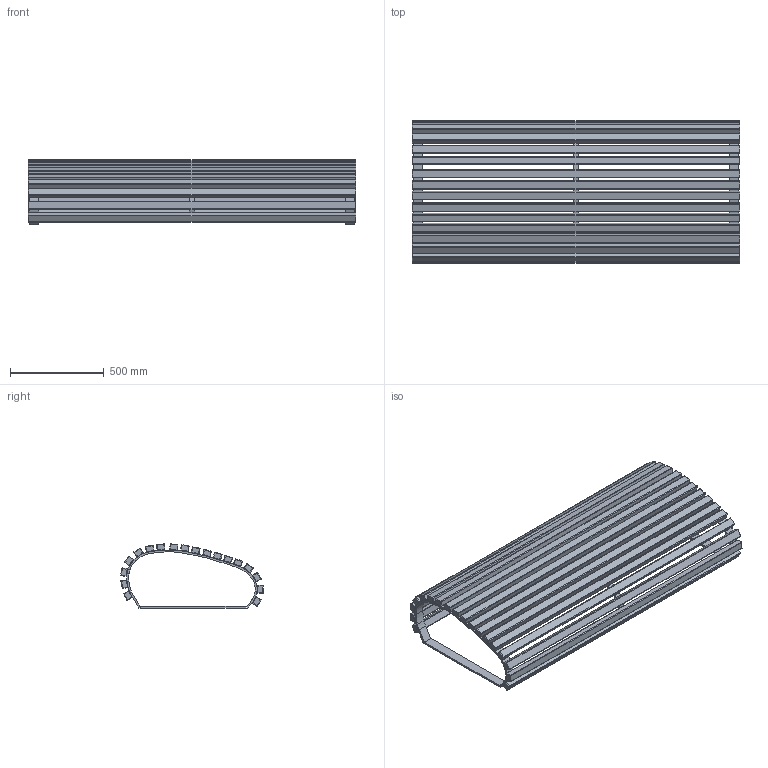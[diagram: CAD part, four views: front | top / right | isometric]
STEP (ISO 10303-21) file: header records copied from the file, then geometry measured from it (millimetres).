
FILE_DESCRIPTION(/* description */ (''),/* implementation_level */ '2;1');
FILE_NAME(/* name */ 'ENV02-A3_UAP_ENVIRON_Bench_3D',/* time_stamp */ '2018-01-23T18:23:29-05:00',/* author */ (''),/* organization */ (''),/* preprocessor_version */ 'ST-DEVELOPER v15',/* originating_system */ '',/* authorisation */ '');
FILE_SCHEMA (('AUTOMOTIVE_DESIGN'));
Length unit declared in the file: millimetre
Products named in the file (1): Document
Bounding box: 1750 x 761.19 x 342.86 mm (x, y, z)
Volume: 44105009.5 mm3; surface area: 5038319.5 mm2
Topology: 23 solids, 23 shells, 601 faces, 1377 edges, 678 vertices
Faces by surface type: bspline 473, plane 128
Entity records: 14530 total; most frequent: CARTESIAN_POINT 7226, ORIENTED_EDGE 2466, EDGE_CURVE 1233, VERTEX_POINT 678, ADVANCED_FACE 601, FACE_OUTER_BOUND 601, EDGE_LOOP 601, B_SPLINE_CURVE_WITH_KNOTS 464
